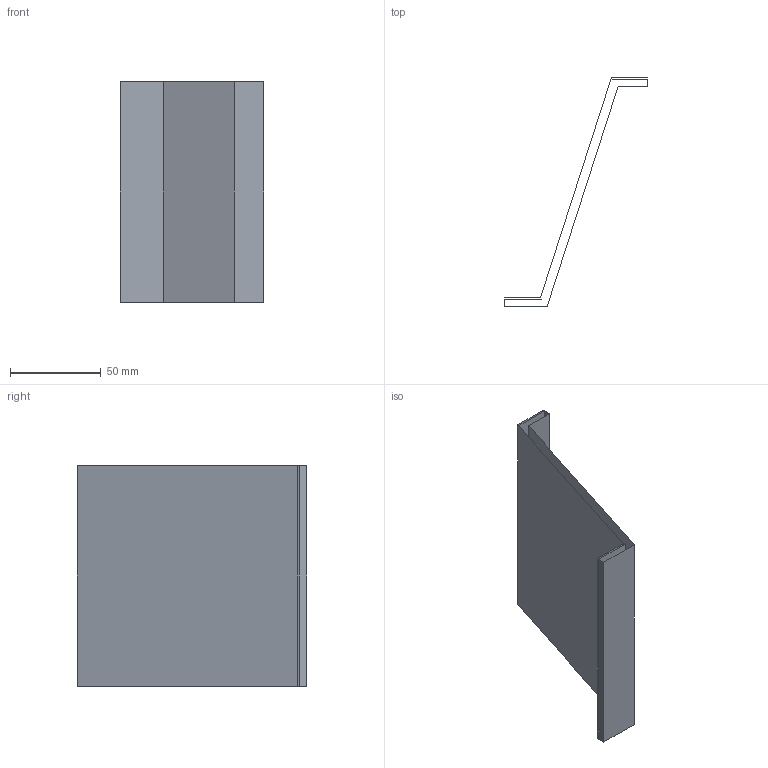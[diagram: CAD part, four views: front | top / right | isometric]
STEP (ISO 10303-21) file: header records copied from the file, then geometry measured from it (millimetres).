
FILE_DESCRIPTION(('CATIA V5 STEP Exchange'),'2;1');
FILE_NAME('C:\_Andres\UNIVERSIDAD\IQS\ASIGNATURAS\DAO\EXF\EXF-16172c\2inicio\Pares_Guanybens_Ej06_v21.stp','2017-03-05T21:01:26+00:00',('none'),('none'),'CATIA Version 5-6 Release 2014 SP1 HF18','CATIA V5 STEP AP203','none');
FILE_SCHEMA(('CONFIG_CONTROL_DESIGN'));
Length unit declared in the file: millimetre
Products named in the file (1): Pares_Guanybens_Ej06_v21
Bounding box: 79 x 126 x 121 mm (x, y, z)
Surface area: 46253.4 mm2 (no closed solid volume)
Topology: 0 solids, 2 shells, 10 faces, 42 edges, 36 vertices
Faces by surface type: plane 10
Entity records: 461 total; most frequent: CARTESIAN_POINT 100, DIRECTION 59, ORIENTED_EDGE 40, VECTOR 39, LINE 39, EDGE_CURVE 32, VERTEX_POINT 24, AXIS2_PLACEMENT_3D 11
